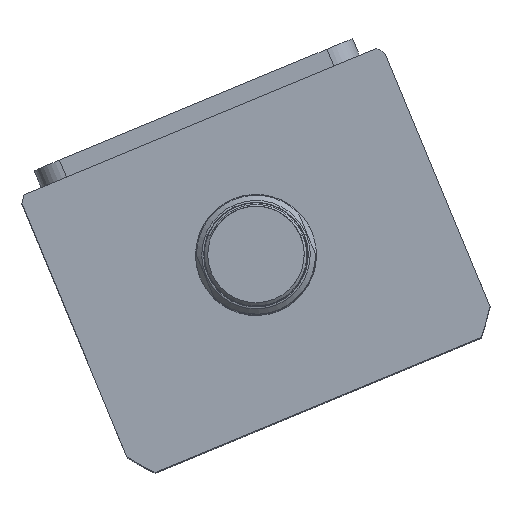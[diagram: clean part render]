
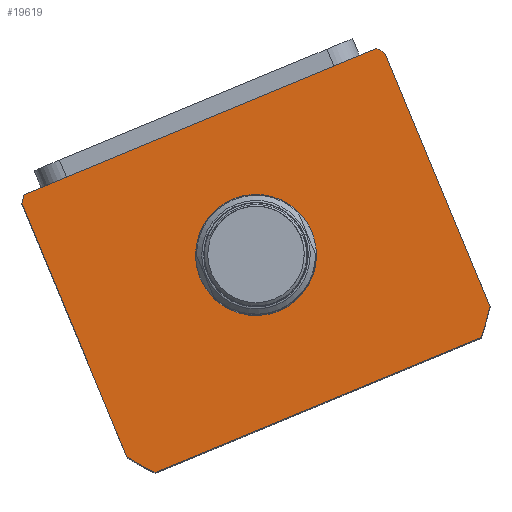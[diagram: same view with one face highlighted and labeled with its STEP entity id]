
A CAD part, top view. The second image highlights one B-rep face of the part: STEP entity #19619.
In plain terms, the highlighted planar face has unit normal (0, 0, 1) as drawn and (0, 0, -1) by its records, which use the part's own axes.
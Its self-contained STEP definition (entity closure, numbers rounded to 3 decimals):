
#488 = VERTEX_POINT ( 'NONE', #21913 ) ;
#549 = EDGE_CURVE ( 'NONE', #27600, #27632, #9933, .T. ) ;
#616 = EDGE_LOOP ( 'NONE', ( #9999, #27308 ) ) ;
#706 = VERTEX_POINT ( 'NONE', #13662 ) ;
#806 = VERTEX_POINT ( 'NONE', #9619 ) ;
#1001 = EDGE_CURVE ( 'NONE', #7717, #806, #23995, .T. ) ;
#1629 = CARTESIAN_POINT ( 'NONE',  ( 0., 2.5, 0. ) ) ;
#1965 = CARTESIAN_POINT ( 'NONE',  ( -57., 44.5, 0. ) ) ;
#2179 = LINE ( 'NONE', #1965, #2873 ) ;
#2546 = CARTESIAN_POINT ( 'NONE',  ( -17.5, 2.5, 0. ) ) ;
#2650 = DIRECTION ( 'NONE',  ( 0., 0., 1. ) ) ;
#2815 = ORIENTED_EDGE ( 'NONE', *, *, #5156, .F. ) ;
#2873 = VECTOR ( 'NONE', #17176, 1000. ) ;
#3816 = DIRECTION ( 'NONE',  ( 1., 0., 0. ) ) ;
#3884 = ORIENTED_EDGE ( 'NONE', *, *, #18653, .F. ) ;
#4954 = VECTOR ( 'NONE', #20282, 1000. ) ;
#5047 = CARTESIAN_POINT ( 'NONE',  ( 0., 2.5, 0. ) ) ;
#5156 = EDGE_CURVE ( 'NONE', #488, #26799, #7918, .T. ) ;
#5169 = AXIS2_PLACEMENT_3D ( 'NONE', #24300, #2650, #17862 ) ;
#5362 = CARTESIAN_POINT ( 'NONE',  ( 0., 2.5, 0. ) ) ;
#6323 = CARTESIAN_POINT ( 'NONE',  ( 51.198, -44.5, 0. ) ) ;
#6815 = PLANE ( 'NONE',  #5169 ) ;
#7176 = EDGE_CURVE ( 'NONE', #15756, #7717, #10813, .T. ) ;
#7225 = DIRECTION ( 'NONE',  ( 1., 0., 0. ) ) ;
#7356 = AXIS2_PLACEMENT_3D ( 'NONE', #5362, #20578, #7544 ) ;
#7544 = DIRECTION ( 'NONE',  ( 1., 0., 0. ) ) ;
#7610 = DIRECTION ( 'NONE',  ( 0., 0., 1. ) ) ;
#7717 = VERTEX_POINT ( 'NONE', #12039 ) ;
#7918 = CIRCLE ( 'NONE', #7356, 69.5 ) ;
#8560 = EDGE_LOOP ( 'NONE', ( #2815, #24942, #3884, #20820, #17499, #17119, #12411, #12013 ) ) ;
#8787 = CIRCLE ( 'NONE', #13722, 17.5 ) ;
#9306 = AXIS2_PLACEMENT_3D ( 'NONE', #20639, #7610, #22814 ) ;
#9619 = CARTESIAN_POINT ( 'NONE',  ( -57., -37.265, 0. ) ) ;
#9933 = LINE ( 'NONE', #21722, #4954 ) ;
#9999 = ORIENTED_EDGE ( 'NONE', *, *, #24266, .T. ) ;
#10298 = CARTESIAN_POINT ( 'NONE',  ( 55.374, 44.5, 0. ) ) ;
#10450 = CARTESIAN_POINT ( 'NONE',  ( 0., 2.5, 0. ) ) ;
#10813 = CIRCLE ( 'NONE', #11025, 69.5 ) ;
#11018 = VERTEX_POINT ( 'NONE', #2546 ) ;
#11025 = AXIS2_PLACEMENT_3D ( 'NONE', #5047, #20269, #7225 ) ;
#11943 = DIRECTION ( 'NONE',  ( 0., 0., 1. ) ) ;
#12013 = ORIENTED_EDGE ( 'NONE', *, *, #27599, .F. ) ;
#12039 = CARTESIAN_POINT ( 'NONE',  ( -57., 42.265, 0. ) ) ;
#12411 = ORIENTED_EDGE ( 'NONE', *, *, #7176, .F. ) ;
#12677 = AXIS2_PLACEMENT_3D ( 'NONE', #10450, #25647, #12678 ) ;
#12678 = DIRECTION ( 'NONE',  ( 1., 0., 0. ) ) ;
#13662 = CARTESIAN_POINT ( 'NONE',  ( 57., -37.265, 0. ) ) ;
#13722 = AXIS2_PLACEMENT_3D ( 'NONE', #1629, #16854, #3816 ) ;
#14432 = VECTOR ( 'NONE', #24798, 1000. ) ;
#14590 = EDGE_CURVE ( 'NONE', #706, #488, #25974, .T. ) ;
#14988 = CARTESIAN_POINT ( 'NONE',  ( -51.198, -44.5, 0. ) ) ;
#15375 = FACE_OUTER_BOUND ( 'NONE', #8560, .T. ) ;
#15756 = VERTEX_POINT ( 'NONE', #21759 ) ;
#16519 = CARTESIAN_POINT ( 'NONE',  ( 17.5, 2.5, 0. ) ) ;
#16854 = DIRECTION ( 'NONE',  ( 0., 0., 1. ) ) ;
#17119 = ORIENTED_EDGE ( 'NONE', *, *, #1001, .F. ) ;
#17176 = DIRECTION ( 'NONE',  ( -1., 0., 0. ) ) ;
#17321 = CIRCLE ( 'NONE', #9306, 69.5 ) ;
#17499 = ORIENTED_EDGE ( 'NONE', *, *, #24841, .F. ) ;
#17766 = CIRCLE ( 'NONE', #12677, 69.5 ) ;
#17862 = DIRECTION ( 'NONE',  ( 1., 0., 0. ) ) ;
#18653 = EDGE_CURVE ( 'NONE', #27632, #706, #17766, .T. ) ;
#19619 = ADVANCED_FACE ( 'NONE', ( #26227, #15375 ), #6815, .F. ) ;
#20269 = DIRECTION ( 'NONE',  ( 0., 0., 1. ) ) ;
#20282 = DIRECTION ( 'NONE',  ( 1., 0., 0. ) ) ;
#20578 = DIRECTION ( 'NONE',  ( 0., 0., 1. ) ) ;
#20639 = CARTESIAN_POINT ( 'NONE',  ( 0., 2.5, 0. ) ) ;
#20820 = ORIENTED_EDGE ( 'NONE', *, *, #549, .F. ) ;
#21722 = CARTESIAN_POINT ( 'NONE',  ( -57., -44.5, 0. ) ) ;
#21759 = CARTESIAN_POINT ( 'NONE',  ( -55.374, 44.5, 0. ) ) ;
#21913 = CARTESIAN_POINT ( 'NONE',  ( 57., 42.265, 0. ) ) ;
#22079 = CIRCLE ( 'NONE', #22168, 17.5 ) ;
#22168 = AXIS2_PLACEMENT_3D ( 'NONE', #24939, #11943, #27123 ) ;
#22611 = CARTESIAN_POINT ( 'NONE',  ( 57., 44.5, 0. ) ) ;
#22814 = DIRECTION ( 'NONE',  ( 1., 0., 0. ) ) ;
#23311 = VECTOR ( 'NONE', #23972, 1000. ) ;
#23972 = DIRECTION ( 'NONE',  ( 0., -1., 0. ) ) ;
#23995 = LINE ( 'NONE', #24527, #23311 ) ;
#24266 = EDGE_CURVE ( 'NONE', #24354, #11018, #22079, .T. ) ;
#24300 = CARTESIAN_POINT ( 'NONE',  ( 0., 0., 0. ) ) ;
#24354 = VERTEX_POINT ( 'NONE', #16519 ) ;
#24527 = CARTESIAN_POINT ( 'NONE',  ( -57., 44.5, 0. ) ) ;
#24798 = DIRECTION ( 'NONE',  ( 0., 1., 0. ) ) ;
#24841 = EDGE_CURVE ( 'NONE', #806, #27600, #17321, .T. ) ;
#24939 = CARTESIAN_POINT ( 'NONE',  ( 0., 2.5, 0. ) ) ;
#24942 = ORIENTED_EDGE ( 'NONE', *, *, #14590, .F. ) ;
#25172 = EDGE_CURVE ( 'NONE', #11018, #24354, #8787, .T. ) ;
#25647 = DIRECTION ( 'NONE',  ( 0., 0., 1. ) ) ;
#25974 = LINE ( 'NONE', #22611, #14432 ) ;
#26227 = FACE_BOUND ( 'NONE', #616, .T. ) ;
#26799 = VERTEX_POINT ( 'NONE', #10298 ) ;
#27123 = DIRECTION ( 'NONE',  ( 1., 0., 0. ) ) ;
#27308 = ORIENTED_EDGE ( 'NONE', *, *, #25172, .T. ) ;
#27599 = EDGE_CURVE ( 'NONE', #26799, #15756, #2179, .T. ) ;
#27600 = VERTEX_POINT ( 'NONE', #14988 ) ;
#27632 = VERTEX_POINT ( 'NONE', #6323 ) ;
